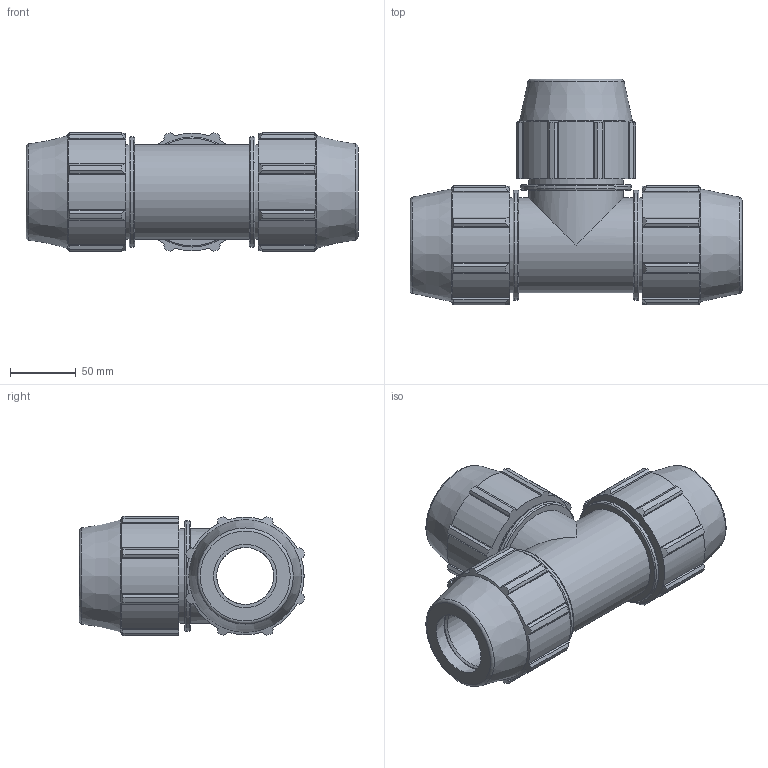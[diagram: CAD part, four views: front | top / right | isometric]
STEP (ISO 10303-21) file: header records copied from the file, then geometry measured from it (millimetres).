
FILE_DESCRIPTION(/* description */ ('PLASSON TEE 1 1/2'''' - 1 1/2'''' - 1 1/2'''''),/* implementation_level */ '2;1');
FILE_NAME(/* name */ 'C:\Dropbox\KIMPROJECTS-Inventor 2019\99-16-3568-Processing Inch\ASTM Compression 2021\0704M0\0704M0150.ipt.stp',/* time_stamp */ '2021-08-26T12:31:27+03:00',/* author */ ('KIM'),/* organization */ (''),/* preprocessor_version */ 'ST-DEVELOPER v17.2',/* originating_system */ 'Autodesk Inventor 2019',/* authorisation */ '');
FILE_SCHEMA (('AUTOMOTIVE_DESIGN { 1 0 10303 214 3 1 1 }'));
Length unit declared in the file: inch
Products named in the file (1): 0704M0150
Bounding box: 251.97 x 171.15 x 90.34 mm (x, y, z)
Volume: 1188644 mm3; surface area: 167073.5 mm2
Topology: 1 solids, 1 shells, 212 faces, 627 edges, 431 vertices
Faces by surface type: plane 114, cylinder 61, cone 28, torus 9
Full cylindrical faces by diameter (mm): 43.29 x2, 48.1 x3, 72.009 x5, 83.53 x3
Entity records: 7414 total; most frequent: CARTESIAN_POINT 1431, ORIENTED_EDGE 1254, DIRECTION 1205, EDGE_CURVE 627, AXIS2_PLACEMENT_3D 445, VERTEX_POINT 431, LINE 315, VECTOR 315
